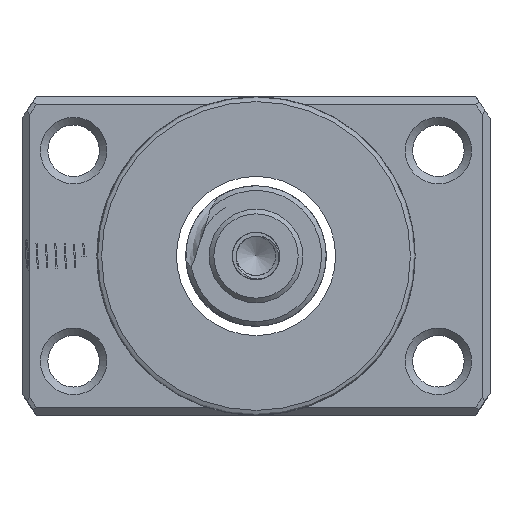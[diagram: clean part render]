
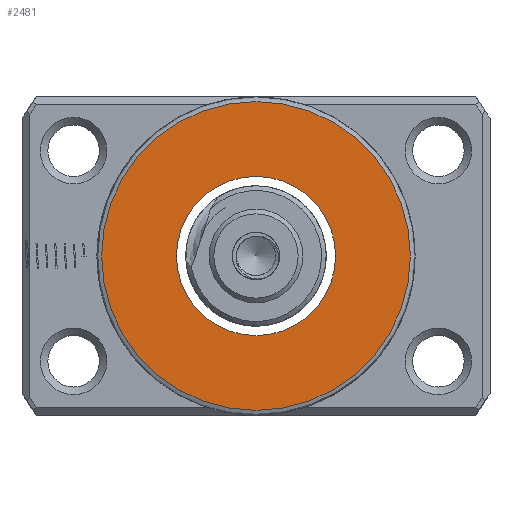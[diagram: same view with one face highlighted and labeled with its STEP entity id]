
A CAD part, left-side view. The second image highlights one B-rep face of the part: STEP entity #2481.
In plain terms, the highlighted planar face has unit normal (-1, 0, 0).
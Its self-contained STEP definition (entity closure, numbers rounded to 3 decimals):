
#66 = EDGE_LOOP ( 'NONE', ( #6102 ) ) ;
#1278 = AXIS2_PLACEMENT_3D ( 'NONE', #14744, #6542, #8118 ) ;
#2203 = CARTESIAN_POINT ( 'NONE',  ( -53.324, 0., 8.5 ) ) ;
#2481 = ADVANCED_FACE ( 'NONE', ( #15161, #4178 ), #12289, .T. ) ;
#2923 = ORIENTED_EDGE ( 'NONE', *, *, #11506, .T. ) ;
#3204 = DIRECTION ( 'NONE',  ( 0., 0., 1. ) ) ;
#3513 = CIRCLE ( 'NONE', #1278, 16.5 ) ;
#4008 = EDGE_LOOP ( 'NONE', ( #2923 ) ) ;
#4178 = FACE_BOUND ( 'NONE', #66, .T. ) ;
#4380 = CIRCLE ( 'NONE', #14124, 8.5 ) ;
#5574 = CARTESIAN_POINT ( 'NONE',  ( -53.324, 8.5, 0. ) ) ;
#6102 = ORIENTED_EDGE ( 'NONE', *, *, #15465, .F. ) ;
#6542 = DIRECTION ( 'NONE',  ( -1., 0., 0. ) ) ;
#7112 = AXIS2_PLACEMENT_3D ( 'NONE', #5574, #10897, #3204 ) ;
#7444 = CARTESIAN_POINT ( 'NONE',  ( -53.324, 0., 16.5 ) ) ;
#8118 = DIRECTION ( 'NONE',  ( 0., 0., 1. ) ) ;
#8312 = CARTESIAN_POINT ( 'NONE',  ( -53.324, 0., 0. ) ) ;
#10756 = DIRECTION ( 'NONE',  ( -1., 0., 0. ) ) ;
#10897 = DIRECTION ( 'NONE',  ( -1., 0., 0. ) ) ;
#11506 = EDGE_CURVE ( 'NONE', #11532, #11532, #3513, .T. ) ;
#11532 = VERTEX_POINT ( 'NONE', #7444 ) ;
#12289 = PLANE ( 'NONE',  #7112 ) ;
#14124 = AXIS2_PLACEMENT_3D ( 'NONE', #8312, #10756, #15020 ) ;
#14153 = VERTEX_POINT ( 'NONE', #2203 ) ;
#14744 = CARTESIAN_POINT ( 'NONE',  ( -53.324, 0., 0. ) ) ;
#15020 = DIRECTION ( 'NONE',  ( 0., 0., 1. ) ) ;
#15161 = FACE_OUTER_BOUND ( 'NONE', #4008, .T. ) ;
#15465 = EDGE_CURVE ( 'NONE', #14153, #14153, #4380, .T. ) ;
